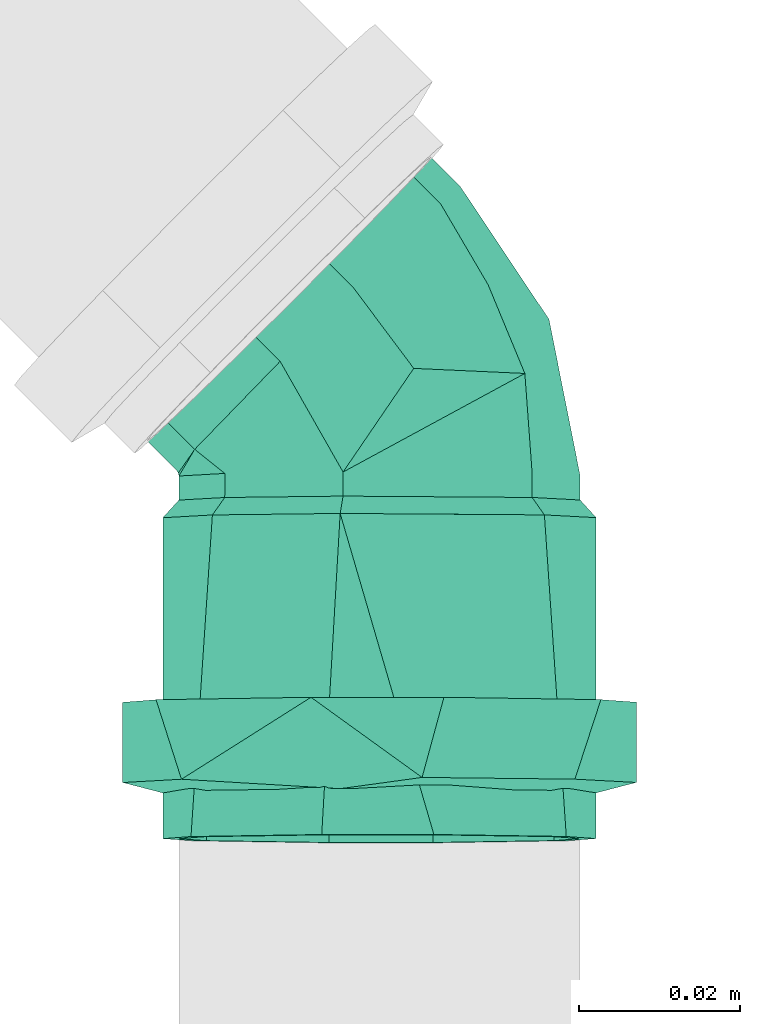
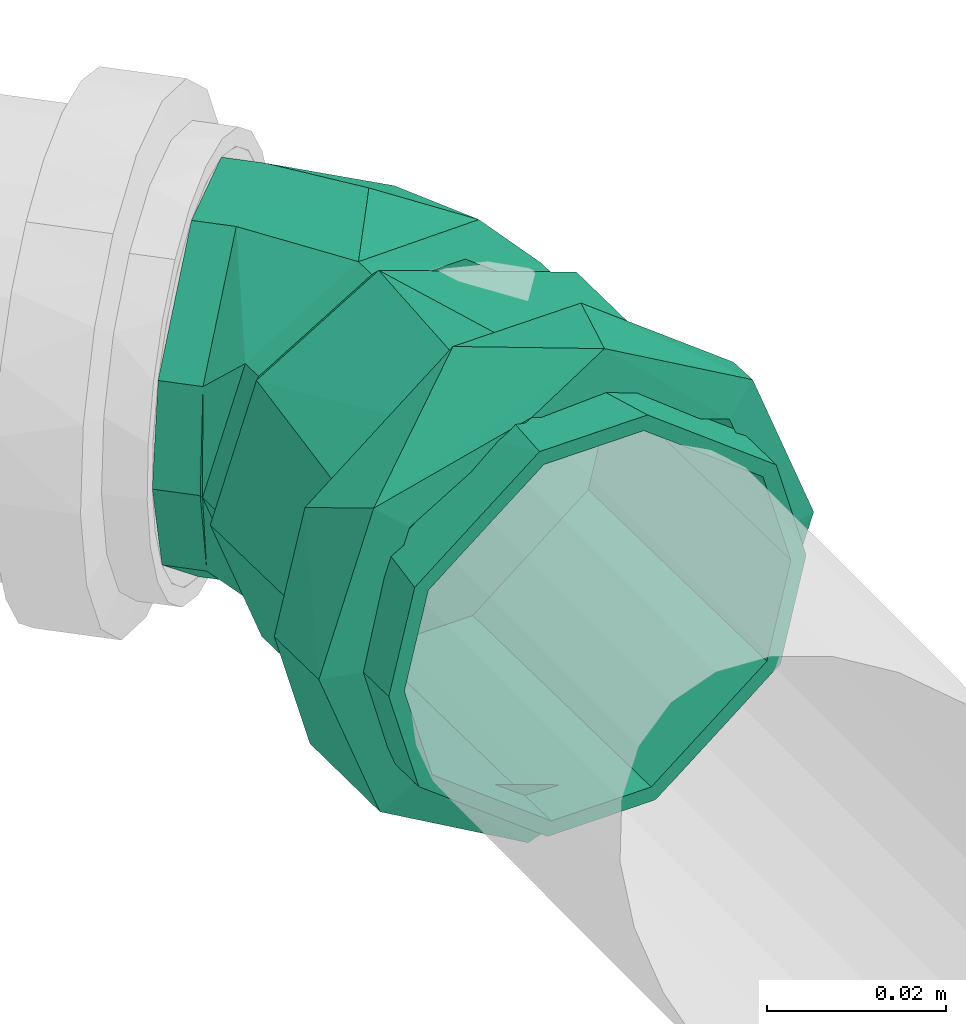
# One storey, part 296 of 589: 1 flow fitting.
"""IFC2X3 building model written with IfcOpenShell, lengths in millimetres."""

from ifc_helpers import new_model, entity, si_unit, converted_unit, derived_unit, direction, frame, origin, place, context, subcontext, project, spatial, faceted_brep, source, transform, mapped, material, type_object, type_shapes, element, save


model = new_model("IFC2X3")

# Units and contexts
model_context = context("Model", 3, precision=0.01, world=origin(), true_north=direction((6.123031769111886e-17, 1.0)))
body_context = subcontext(model_context, "Body", "Model", "MODEL_VIEW")
ifc_project = project(units=[si_unit("LENGTHUNIT", "METRE", prefix="MILLI"), si_unit("AREAUNIT", "SQUARE_METRE"), si_unit("VOLUMEUNIT", "CUBIC_METRE"), converted_unit("PLANEANGLEUNIT", "DEGREE", entity("IfcRatioMeasure", 0.017453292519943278), si_unit("PLANEANGLEUNIT", "RADIAN"), dimensions=[0, 0, 0, 0, 0, 0, 0]), si_unit("MASSUNIT", "GRAM", prefix="KILO"), derived_unit("MASSDENSITYUNIT", [(si_unit("MASSUNIT", "GRAM", prefix="KILO"), 1), (si_unit("LENGTHUNIT", "METRE"), -3)]), derived_unit("IONCONCENTRATIONUNIT", [(si_unit("MASSUNIT", "GRAM", prefix="KILO"), 1), (si_unit("LENGTHUNIT", "METRE"), -3)]), derived_unit("MOMENTOFINERTIAUNIT", [(si_unit("LENGTHUNIT", "METRE"), 4)]), si_unit("TIMEUNIT", "SECOND"), si_unit("FREQUENCYUNIT", "HERTZ"), si_unit("THERMODYNAMICTEMPERATUREUNIT", "DEGREE_CELSIUS"), derived_unit("THERMALTRANSMITTANCEUNIT", [(si_unit("MASSUNIT", "GRAM", prefix="KILO"), 1), (si_unit("THERMODYNAMICTEMPERATUREUNIT", "KELVIN"), -1), (si_unit("TIMEUNIT", "SECOND"), -3)]), derived_unit("THERMALCONDUCTANCEUNIT", [(si_unit("MASSUNIT", "GRAM", prefix="KILO"), 1), (si_unit("THERMODYNAMICTEMPERATUREUNIT", "KELVIN"), -1), (si_unit("TIMEUNIT", "SECOND"), -3), (si_unit("LENGTHUNIT", "METRE"), 1)]), derived_unit("VOLUMETRICFLOWRATEUNIT", [(si_unit("LENGTHUNIT", "METRE"), 3), (si_unit("TIMEUNIT", "SECOND"), -1)]), derived_unit("MASSFLOWRATEUNIT", [(si_unit("MASSUNIT", "GRAM", prefix="KILO"), 1), (si_unit("TIMEUNIT", "SECOND"), -1)]), derived_unit("ROTATIONALFREQUENCYUNIT", [(si_unit("TIMEUNIT", "SECOND"), -1)]), si_unit("ELECTRICCURRENTUNIT", "AMPERE"), si_unit("ELECTRICVOLTAGEUNIT", "VOLT"), si_unit("POWERUNIT", "WATT"), si_unit("FORCEUNIT", "NEWTON", prefix="KILO"), si_unit("ILLUMINANCEUNIT", "LUX"), si_unit("LUMINOUSFLUXUNIT", "LUMEN"), si_unit("LUMINOUSINTENSITYUNIT", "CANDELA"), derived_unit("USERDEFINED", [(si_unit("MASSUNIT", "GRAM", prefix="KILO"), -1), (si_unit("LENGTHUNIT", "METRE"), -2), (si_unit("TIMEUNIT", "SECOND"), 3), (si_unit("LUMINOUSFLUXUNIT", "LUMEN"), 1)]), derived_unit("USERDEFINED", [(si_unit("MASSUNIT", "GRAM", prefix="KILO"), 1), (si_unit("TIMEUNIT", "SECOND"), -3), (si_unit("LENGTHUNIT", "METRE"), 3), (si_unit("ELECTRICCURRENTUNIT", "AMPERE"), -2)]), derived_unit("SOUNDPOWERUNIT", [(si_unit("MASSUNIT", "GRAM", prefix="KILO"), 1), (si_unit("TIMEUNIT", "SECOND"), -3), (si_unit("LENGTHUNIT", "METRE"), 2)]), derived_unit("SOUNDPRESSUREUNIT", [(si_unit("MASSUNIT", "GRAM", prefix="KILO"), 1), (si_unit("LENGTHUNIT", "METRE"), -1), (si_unit("TIMEUNIT", "SECOND"), -2)]), derived_unit("LINEARVELOCITYUNIT", [(si_unit("LENGTHUNIT", "METRE"), 1), (si_unit("TIMEUNIT", "SECOND"), -1)]), si_unit("PRESSUREUNIT", "PASCAL"), derived_unit("USERDEFINED", [(si_unit("MASSUNIT", "GRAM", prefix="KILO"), 1), (si_unit("LENGTHUNIT", "METRE"), -2), (si_unit("TIMEUNIT", "SECOND"), -2)]), derived_unit("LINEARFORCEUNIT", [(si_unit("MASSUNIT", "GRAM", prefix="KILO"), 1), (si_unit("TIMEUNIT", "SECOND"), -2)]), derived_unit("PLANARFORCEUNIT", [(si_unit("MASSUNIT", "GRAM", prefix="KILO"), 1), (si_unit("LENGTHUNIT", "METRE"), -1), (si_unit("TIMEUNIT", "SECOND"), -2)]), derived_unit("SPECIFICHEATCAPACITYUNIT", [(si_unit("THERMODYNAMICTEMPERATUREUNIT", "KELVIN"), -1), (si_unit("LENGTHUNIT", "METRE"), 2), (si_unit("TIMEUNIT", "SECOND"), -2)]), derived_unit("HEATINGVALUEUNIT", [(si_unit("LENGTHUNIT", "METRE"), 2), (si_unit("TIMEUNIT", "SECOND"), -2)]), derived_unit("VAPORPERMEABILITYUNIT", [(si_unit("LENGTHUNIT", "METRE"), -1), (si_unit("TIMEUNIT", "SECOND"), 1)]), derived_unit("DYNAMICVISCOSITYUNIT", [(si_unit("MASSUNIT", "GRAM", prefix="KILO"), 1), (si_unit("TIMEUNIT", "SECOND"), -1), (si_unit("LENGTHUNIT", "METRE"), -1)]), derived_unit("THERMALEXPANSIONCOEFFICIENTUNIT", [(si_unit("THERMODYNAMICTEMPERATUREUNIT", "KELVIN"), -1)]), derived_unit("MODULUSOFELASTICITYUNIT", [(si_unit("MASSUNIT", "GRAM", prefix="KILO"), 1), (si_unit("LENGTHUNIT", "METRE"), -1), (si_unit("TIMEUNIT", "SECOND"), -2)]), derived_unit("ISOTHERMALMOISTURECAPACITYUNIT", [(si_unit("LENGTHUNIT", "METRE"), 3), (si_unit("MASSUNIT", "GRAM", prefix="KILO"), -1)]), derived_unit("MOISTUREDIFFUSIVITYUNIT", [(si_unit("TIMEUNIT", "SECOND"), -1), (si_unit("LENGTHUNIT", "METRE"), 2)])], contexts=[model_context])

# Site, building, storey
site_placement = place(None, origin())
site = spatial("IfcSite", under=ifc_project, at=site_placement, Name="Default", CompositionType="ELEMENT")
building_placement = place(site_placement, origin())
building = spatial("IfcBuilding", under=site, at=building_placement, CompositionType="ELEMENT")
storey_placement = place(building_placement, frame((0.0, 0.0, 100.0)))
storey = spatial("IfcBuildingStorey", under=building, at=storey_placement, Name="TÉRREO", CompositionType="ELEMENT", Elevation=100.0)

# Flow fitting
ifc_material = material(Name="PVC Série Normal")
pipe_fitting_type = type_object("IfcPipeFittingType", Name="PVC Esgoto_Joelho 45_90_Rodrigo MEP:a. Série Normal", PredefinedType="NOTDEFINED", material=ifc_material)
shared_shape = source(origin(), body_context, "Body", "Brep", [
    faceted_brep([(-7.692074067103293, 22.924025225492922, 12.500000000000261), (-10.060040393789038, 25.29277610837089, 0.0), (-7.692074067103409, 22.92402522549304, -12.499999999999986), (3.0401412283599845, 12.188254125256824, -24.1481456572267), (12.189260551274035, 3.0361035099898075, -24.148145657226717), (22.92147584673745, -7.699667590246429, -12.500000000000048), (25.289442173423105, -10.068418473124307, 0.0), (22.921475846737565, -7.699667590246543, 12.499999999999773), (12.18926055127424, 3.0361035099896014, 24.148145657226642), (3.0401412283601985, 12.188254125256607, 24.14814565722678), (28.967006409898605, -6.3920722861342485, 0.0), (26.599040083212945, -4.023321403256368, -12.500000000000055), (15.86682478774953, 6.712449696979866, -24.148145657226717), (6.717705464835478, 15.864600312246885, -24.148145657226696), (-4.014509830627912, 26.600371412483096, -12.499999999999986), (-6.382476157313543, 28.969122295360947, 0.0), (-4.0145098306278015, 26.600371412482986, 12.500000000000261), (6.717705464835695, 15.86460031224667, 24.14814565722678), (15.866824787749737, 6.712449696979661, 24.148145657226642), (26.599040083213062, -4.023321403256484, 12.499999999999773)], [[[0, 1, 2, 3, 4, 5, 6, 7, 8, 9]], [[10, 11, 12, 13, 14, 15, 16, 17, 18, 19]], [[6, 10, 19, 7]], [[7, 19, 18, 8]], [[18, 17, 9, 8]], [[9, 17, 16, 0]], [[0, 16, 15, 1]], [[1, 15, 14, 2]], [[2, 14, 13, 3]], [[13, 12, 4, 3]], [[4, 12, 11, 5]], [[5, 11, 10, 6]]]),
    faceted_brep([(-55.967030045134, -6.988114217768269, -26.07999730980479), (-55.967030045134, -6.47047612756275, -24.14814565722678), (-55.967030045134, 6.4704761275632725, -24.148145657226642), (-55.967030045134, -23.382685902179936, -13.499999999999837), (-55.967030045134, 6.988114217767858, -26.0799973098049), (-55.967030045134, -21.650635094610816, -12.500000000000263), (-55.967030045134, -25.0, 0.0), (-55.967030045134, -27.0, 0.0), (-55.967030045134, -21.650635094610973, 12.499999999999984), (-55.967030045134, -23.382685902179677, 13.500000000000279), (-55.967030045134, -6.470476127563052, 24.1481456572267), (-55.967030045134, -6.98811421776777, 26.079997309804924), (-55.967030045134, 6.470476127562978, 24.14814565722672), (-55.967030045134, 6.988114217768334, 26.07999730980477), (-55.967030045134, 21.650635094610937, 12.500000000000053), (-55.967030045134, 23.38268590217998, 13.499999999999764), (-55.967030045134, 27.0, 0.0), (-55.967030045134, 25.0, 0.0), (-55.967030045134, 23.382685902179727, -13.500000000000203), (-55.967030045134, 21.6506350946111, -12.499999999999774), (-15.967030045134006, 21.650635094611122, -12.499999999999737), (-15.967030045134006, 25.0, 0.0), (-15.967030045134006, 6.4704761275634, -24.148145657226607), (-15.967030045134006, -6.470476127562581, -24.148145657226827), (-15.967030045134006, -21.650635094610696, -12.500000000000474), (-15.967030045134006, -25.0, 0.0), (-15.967030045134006, -21.65063509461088, 12.500000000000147), (-15.967030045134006, -6.470476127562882, 24.14814565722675), (-15.967030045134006, 6.470476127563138, 24.148145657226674), (-15.967030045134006, 21.650635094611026, 12.499999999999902), (-15.967030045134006, 27.0, 0.0), (-15.967030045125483, 20.682232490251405, 17.356418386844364), (-15.967030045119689, 4.685536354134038, 26.59033187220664), (-15.967030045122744, -20.686585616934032, 17.35122979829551), (-15.967030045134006, -27.0, 0.0), (-15.96703004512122, -8.000524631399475, 21.970780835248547), (-15.96703004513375, -20.686585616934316, -17.35122979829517), (-15.967030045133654, -4.6922062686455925, -26.589155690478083), (-15.967030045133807, 20.682232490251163, -17.356418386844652), (-15.967030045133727, 7.995013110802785, -21.972787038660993), (-13.76703004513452, -4.338459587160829, -24.620677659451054), (-13.767030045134, 25.0, 0.0), (-13.76703004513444, 19.154245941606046, -16.065953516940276), (-13.767030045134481, 7.40789317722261, -20.34331558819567), (-13.7670300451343, -19.15021526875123, -16.07075776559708), (-13.767030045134, -25.0, 0.0), (-13.767030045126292, -19.150215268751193, 16.070757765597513), (-13.767030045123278, -7.402789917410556, 20.34517318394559), (-13.767030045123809, 19.154245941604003, 16.065953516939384), (-13.767030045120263, 4.344635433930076, 24.619588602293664), (-10.767030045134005, 25.0, 0.0), (-10.767030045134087, 19.151286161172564, 16.069481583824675), (-10.767030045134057, 4.341396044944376, 24.62016003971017), (-10.767030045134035, -7.404832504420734, 20.344954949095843), (-10.767030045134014, -19.15106105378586, 16.069749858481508), (-10.767030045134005, -25.0, 0.0), (-10.767030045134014, -19.15106105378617, -16.069749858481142), (-10.767030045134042, -4.341051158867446, -24.62022085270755), (-10.767030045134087, 19.15128616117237, -16.069481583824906), (-10.767030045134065, 7.405117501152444, -20.344851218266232), (25.289442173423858, -10.068418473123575, 0.0), (22.9214758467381, -7.699667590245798, -12.500000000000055), (12.189260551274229, 3.0361035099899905, -24.14814565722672), (3.0401412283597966, 12.188254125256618, -24.1481456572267), (-7.692074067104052, 22.92402522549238, -12.499999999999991), (-10.060040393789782, 25.292776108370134, 0.0), (-7.692074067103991, 22.924025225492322, 12.500000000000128), (3.040141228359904, 12.188254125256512, 24.14814565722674), (12.189260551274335, 3.036103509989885, 24.148145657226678), (22.92147584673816, -7.699667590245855, 12.499999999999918), (1.7065644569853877, -18.23155710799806, 15.05751816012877), (8.745922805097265, -21.119472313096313, 0.0), (12.768205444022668, -13.650820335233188, 14.852748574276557), (-3.6046282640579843, -23.575618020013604, 0.0), (2.158847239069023, -4.459785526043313, 23.973885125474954), (-10.384423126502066, 25.076088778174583, 0.0), (19.21699707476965, -14.124805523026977, 0.0), (12.764718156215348, -13.647838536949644, -14.858628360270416), (2.1213265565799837, -4.514353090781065, -23.9633231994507), (1.756380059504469, -18.2440512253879, -15.023571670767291)], [[[0, 1, 2]], [[1, 0, 3]], [[2, 4, 0]], [[3, 5, 1]], [[3, 6, 5]], [[6, 3, 7]], [[8, 6, 7]], [[8, 7, 9]], [[9, 10, 8]], [[9, 11, 10]], [[10, 11, 12]], [[13, 12, 11]], [[13, 14, 12]], [[14, 13, 15]], [[16, 14, 15]], [[17, 14, 16]], [[18, 17, 16]], [[18, 19, 17]], [[19, 18, 4]], [[4, 2, 19]], [[20, 21, 17, 19]], [[22, 20, 19, 2]], [[2, 1, 23, 22]], [[24, 23, 1, 5]], [[25, 24, 5, 6]], [[26, 25, 6, 8]], [[27, 26, 8, 10]], [[10, 12, 28, 27]], [[29, 28, 12, 14]], [[21, 29, 14, 17]], [[16, 15, 30]], [[15, 31, 30]], [[31, 15, 13]], [[31, 13, 32]], [[33, 11, 9]], [[34, 9, 7]], [[11, 33, 35, 32]], [[33, 9, 34]], [[11, 32, 13]], [[7, 3, 34]], [[3, 36, 34]], [[36, 3, 0]], [[36, 0, 37]], [[38, 4, 18]], [[30, 18, 16]], [[4, 38, 39, 37]], [[38, 18, 30]], [[4, 37, 0]], [[28, 29, 21, 20, 22, 23, 24, 25, 26, 27]], [[39, 40, 37]], [[41, 42, 30]], [[30, 42, 38]], [[38, 43, 39]], [[44, 45, 36]], [[38, 42, 43]], [[36, 37, 44]], [[34, 36, 45]], [[40, 39, 43]], [[44, 37, 40]], [[45, 46, 33]], [[33, 34, 45]], [[46, 35, 33]], [[46, 47, 35]], [[47, 32, 35]], [[48, 41, 30]], [[48, 31, 49]], [[31, 48, 30]], [[32, 47, 49]], [[49, 31, 32]], [[41, 48, 50]], [[48, 51, 50]], [[51, 48, 49]], [[51, 49, 52]], [[52, 47, 53]], [[46, 54, 53]], [[46, 45, 54]], [[49, 47, 52]], [[54, 45, 55]], [[47, 46, 53]], [[45, 44, 56]], [[45, 56, 55]], [[56, 44, 57]], [[58, 59, 43]], [[44, 40, 57]], [[40, 59, 57]], [[58, 43, 42]], [[42, 50, 58]], [[50, 42, 41]], [[59, 40, 43]], [[60, 61, 62, 63, 64, 65, 66, 67, 68, 69]], [[51, 52, 67]], [[70, 71, 72]], [[54, 55, 73]], [[70, 72, 74]], [[50, 66, 75]], [[51, 66, 50]], [[52, 70, 74]], [[76, 60, 69]], [[71, 70, 73]], [[72, 76, 69]], [[73, 70, 54]], [[76, 72, 71]], [[68, 72, 69]], [[75, 66, 65]], [[70, 52, 53, 54]], [[52, 74, 67]], [[67, 66, 51]], [[68, 74, 72]], [[68, 67, 74]], [[61, 76, 77]], [[73, 55, 56]], [[78, 58, 63]], [[78, 57, 59, 58]], [[79, 73, 56]], [[57, 78, 79]], [[62, 77, 78]], [[58, 50, 64]], [[75, 65, 64]], [[57, 79, 56]], [[61, 60, 76]], [[64, 63, 58]], [[79, 78, 77]], [[62, 61, 77]], [[76, 71, 77]], [[73, 79, 71]], [[79, 77, 71]], [[63, 62, 78]], [[64, 50, 75]]]),
    faceted_brep([(-38.96703004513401, 6.9881142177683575, -26.07999730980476), (-38.96703004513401, -6.988114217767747, -26.079997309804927), (-38.96703004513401, -8.282209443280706, -30.909626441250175), (-38.96703004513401, 8.28220944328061, -30.9096264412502), (-38.96703004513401, 23.38268590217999, -13.499999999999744), (-38.96703004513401, -27.712812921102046, -16.0), (-38.96703004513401, -23.38268590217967, -13.500000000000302), (-38.96703004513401, -27.0, 0.0), (-38.96703004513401, -32.0, 0.0), (-38.96703004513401, -23.382685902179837, 13.500000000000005), (-38.96703004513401, -27.712812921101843, 16.0), (-38.96703004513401, -6.988114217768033, 26.07999730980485), (-38.96703004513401, -8.28220944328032, 30.909626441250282), (-38.96703004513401, 6.988114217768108, 26.07999730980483), (-38.96703004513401, 8.282209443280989, 30.909626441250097), (-38.96703004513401, 23.382685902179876, 13.499999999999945), (-38.96703004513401, 27.712812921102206, 16.0), (-38.96703004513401, 32.0, 0.0), (-38.96703004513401, 27.0, 0.0), (-38.96703004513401, 27.712812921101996, -16.0), (-48.967030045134, 27.0, 0.0), (-50.26703004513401, 27.0, 0.0), (-48.967030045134, 25.191342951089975, -6.750000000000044), (-48.967030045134, 23.38268590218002, -13.499999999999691), (-48.967030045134, 19.284042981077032, -16.644999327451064), (-48.967030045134, 15.185400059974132, -19.789998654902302), (-48.967030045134, 11.086757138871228, -22.934997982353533), (-48.967030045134, 6.988114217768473, -26.07999730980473), (-48.967030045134, 0.0, -26.079997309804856), (-48.967030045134, -6.988114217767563, -26.079997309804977), (-48.967030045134, -11.086757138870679, -22.934997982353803), (-48.967030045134, -15.185400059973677, -19.789998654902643), (-48.967030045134, -19.284042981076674, -16.644999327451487), (-48.967030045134, -23.382685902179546, -13.50000000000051), (-48.967030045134, -25.191342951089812, -6.750000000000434), (-50.26703004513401, -27.0, 0.0), (-48.967030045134, -27.0, 0.0), (-48.967030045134, -25.19134295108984, 6.750000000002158), (-48.967030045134, -23.382685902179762, 13.500000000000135), (-48.967030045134, -19.284042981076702, 16.64499932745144), (-48.967030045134, -15.185400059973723, 19.7899986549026), (-48.967030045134, -11.086757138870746, 22.934997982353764), (-48.967030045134, -6.988114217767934, 26.079997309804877), (-48.967030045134, 0.0, 26.079997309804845), (-48.967030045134, 6.988114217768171, 26.079997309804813), (-48.967030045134, 11.086757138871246, 22.93499798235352), (-48.967030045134, 15.185400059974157, 19.789998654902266), (-48.967030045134, 19.284042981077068, 16.644999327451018), (-48.967030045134, 23.382685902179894, 13.499999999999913), (-48.967030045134, 25.19134295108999, 6.74999999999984), (-48.967030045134, 32.0, 0.0), (-48.9670300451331, 24.512275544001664, 20.570569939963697), (-48.96703004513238, -5.561133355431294, 31.51307341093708), (-48.9670300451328, -24.51743480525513, 20.56442050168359), (-48.967030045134, -32.0, 0.0), (-48.96703004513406, -24.51743480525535, -20.564420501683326), (-48.96703004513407, 5.553228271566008, -31.514467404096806), (-48.96703004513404, 24.512275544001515, -20.570569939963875), (-50.267030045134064, -23.84329280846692, -8.675614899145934), (-50.267030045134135, -20.686585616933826, -17.351229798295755), (-50.26703004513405, 23.841116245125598, -8.678209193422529), (-50.2670300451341, 20.6822324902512, -17.356418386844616), (-50.26703004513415, -12.689395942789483, -21.970192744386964), (-50.26703004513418, -4.692206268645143, -26.589155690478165), (-50.26703004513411, 14.338622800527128, -19.664602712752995), (-50.26703004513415, 1.6514034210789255, -24.280971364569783), (-50.267030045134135, 7.995013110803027, -21.97278703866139), (-50.26703004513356, 23.84111624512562, 8.678209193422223), (-50.26703004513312, 20.68223249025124, 17.35641838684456), (-50.267030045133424, -23.843292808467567, 8.675614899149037), (-50.26703004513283, -20.68658561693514, 17.351229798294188), (-50.26703004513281, 12.683884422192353, 21.973375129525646), (-50.267030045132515, 4.685536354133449, 26.590331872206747), (-50.26703004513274, -14.343555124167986, 19.66100531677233), (-50.26703004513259, -1.6574941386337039, 24.280556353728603), (-50.26703004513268, -8.000524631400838, 21.97078083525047)], [[[0, 1, 2]], [[2, 3, 0]], [[4, 0, 3]], [[5, 2, 1]], [[1, 6, 5]], [[6, 7, 5]], [[8, 5, 7]], [[8, 7, 9]], [[10, 8, 9]], [[9, 11, 10]], [[11, 12, 10]], [[13, 12, 11]], [[12, 13, 14]], [[13, 15, 14]], [[16, 14, 15]], [[16, 15, 17]], [[17, 15, 18]], [[18, 4, 19]], [[17, 18, 19]], [[3, 19, 4]], [[4, 18, 20, 21, 22, 23]], [[0, 4, 23, 24, 25, 26, 27]], [[0, 27, 28, 29, 1]], [[6, 1, 29, 30, 31, 32, 33]], [[7, 6, 33, 34, 35, 36]], [[9, 7, 36, 35, 37, 38]], [[11, 9, 38, 39, 40, 41, 42]], [[11, 42, 43, 44, 13]], [[15, 13, 44, 45, 46, 47, 48]], [[18, 15, 48, 49, 21, 20]], [[50, 51, 16]], [[50, 16, 17]], [[16, 51, 14]], [[51, 52, 14]], [[12, 52, 53]], [[10, 53, 54]], [[53, 10, 12]], [[10, 54, 8]], [[52, 12, 14]], [[54, 55, 5]], [[54, 5, 8]], [[5, 55, 2]], [[55, 56, 2]], [[3, 56, 57]], [[19, 57, 50]], [[57, 19, 3]], [[19, 50, 17]], [[56, 3, 2]], [[58, 33, 59]], [[23, 60, 61]], [[32, 31, 59, 33]], [[30, 29, 62, 31]], [[24, 23, 61, 25]], [[29, 28, 63]], [[26, 25, 64]], [[65, 63, 28]], [[31, 62, 59]], [[63, 62, 29]], [[60, 22, 21]], [[34, 58, 35]], [[66, 26, 64]], [[28, 27, 65]], [[27, 66, 65]], [[27, 26, 66]], [[64, 25, 61]], [[34, 33, 58]], [[60, 23, 22]], [[67, 48, 68]], [[38, 69, 70]], [[47, 46, 68, 48]], [[45, 44, 71, 46]], [[39, 38, 70, 40]], [[44, 43, 72]], [[41, 40, 73]], [[74, 72, 43]], [[46, 71, 68]], [[72, 71, 44]], [[69, 37, 35]], [[49, 67, 21]], [[75, 41, 73]], [[43, 42, 74]], [[42, 75, 74]], [[42, 41, 75]], [[73, 40, 70]], [[49, 48, 67]], [[69, 38, 37]], [[54, 35, 58, 59, 55]], [[55, 59, 62, 63]], [[55, 63, 56]], [[57, 61, 60, 21, 50]], [[57, 56, 61]], [[56, 63, 65, 66, 64, 61]], [[50, 21, 67, 68, 51]], [[51, 68, 71, 72]], [[51, 72, 52]], [[53, 70, 69, 35, 54]], [[53, 52, 70]], [[52, 72, 74, 75, 73, 70]]]),
])
type_shapes(pipe_fitting_type, [shared_shape])
flow_fitting_placement = place(storey_placement, frame((11656.471838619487, 1753.5703500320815, -292.50730328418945), z_axis=(-0.008282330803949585, 0.01999531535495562, 0.999765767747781), x_axis=(0.0, 0.9998000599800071, -0.01999600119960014)))
element("IfcFlowFitting", 1, at=flow_fitting_placement, inside=storey, type_object=pipe_fitting_type, material=ifc_material, Name="PVC Esgoto_Joelho 45_90_Rodrigo MEP:a. Série Normal", ObjectType="PVC Esgoto_Joelho 45_90_Rodrigo MEP:a. Série Normal", context=body_context, shape_type="MappedRepresentation", body=[
    mapped(shared_shape, transform((0.0, 0.0, 0.0), scale=1.0)),
])

save(model, "model.ifc")
